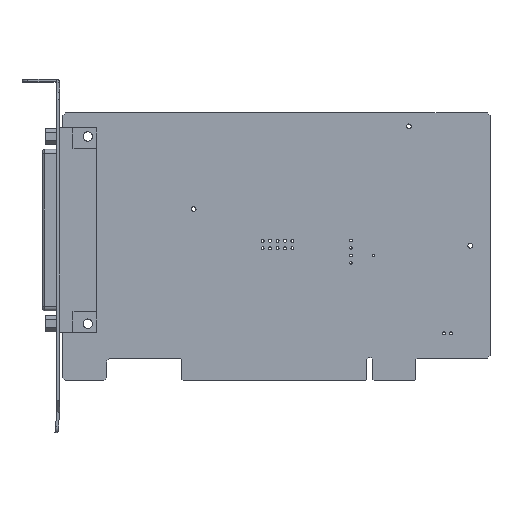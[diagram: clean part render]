
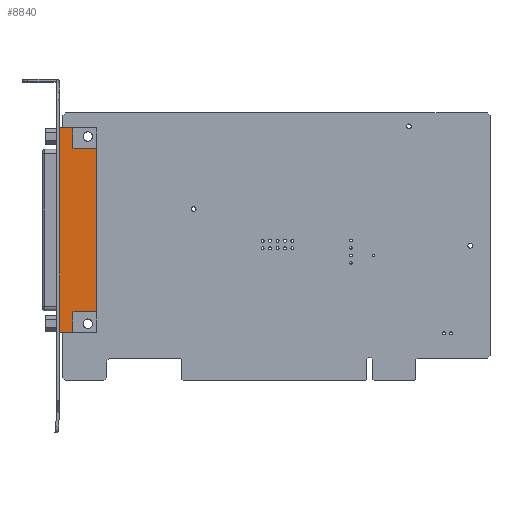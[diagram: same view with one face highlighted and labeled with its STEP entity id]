
A CAD part, top view. The second image highlights one B-rep face of the part: STEP entity #8840.
In plain terms, the highlighted planar face has unit normal (0, 0, 1) as drawn and (0, 1, 0) by its records, which use the part's own axes.
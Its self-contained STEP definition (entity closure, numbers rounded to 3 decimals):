
#356 = CARTESIAN_POINT ( 'NONE',  ( 34.7, 6.275, 12.5 ) ) ;
#367 = FACE_OUTER_BOUND ( 'NONE', #18461, .T. ) ;
#390 = CARTESIAN_POINT ( 'NONE',  ( -27.7, 6.275, 12.5 ) ) ;
#1034 = VERTEX_POINT ( 'NONE', #1038 ) ;
#1038 = CARTESIAN_POINT ( 'NONE',  ( 27.7, 6.275, 4.5 ) ) ;
#1147 = EDGE_CURVE ( 'NONE', #10505, #1034, #2452, .T. ) ;
#1326 = DIRECTION ( 'NONE',  ( -1., 0., 0. ) ) ;
#1343 = VECTOR ( 'NONE', #1326, 1000. ) ;
#1428 = VECTOR ( 'NONE', #5836, 1000. ) ;
#1873 = DIRECTION ( 'NONE',  ( 0., 0., -1. ) ) ;
#2222 = ORIENTED_EDGE ( 'NONE', *, *, #16032, .F. ) ;
#2452 = LINE ( 'NONE', #14321, #1343 ) ;
#2467 = EDGE_CURVE ( 'NONE', #5662, #10153, #4336, .T. ) ;
#2583 = EDGE_CURVE ( 'NONE', #10153, #17090, #16372, .T. ) ;
#2630 = CARTESIAN_POINT ( 'NONE',  ( 27.7, 6.275, 12.5 ) ) ;
#2715 = CARTESIAN_POINT ( 'NONE',  ( -34.7, 6.275, 4.5 ) ) ;
#2987 = ORIENTED_EDGE ( 'NONE', *, *, #1147, .F. ) ;
#3060 = VECTOR ( 'NONE', #5608, 1000. ) ;
#3066 = ORIENTED_EDGE ( 'NONE', *, *, #13120, .F. ) ;
#3464 = CARTESIAN_POINT ( 'NONE',  ( -34.7, 6.275, 12.5 ) ) ;
#3543 = LINE ( 'NONE', #8352, #12674 ) ;
#3900 = AXIS2_PLACEMENT_3D ( 'NONE', #7371, #14790, #14514 ) ;
#4318 = VECTOR ( 'NONE', #8500, 1000. ) ;
#4336 = LINE ( 'NONE', #14583, #1428 ) ;
#4567 = ORIENTED_EDGE ( 'NONE', *, *, #2583, .F. ) ;
#5608 = DIRECTION ( 'NONE',  ( 0., 0., 1. ) ) ;
#5662 = VERTEX_POINT ( 'NONE', #9880 ) ;
#5805 = EDGE_CURVE ( 'NONE', #1034, #7935, #12827, .T. ) ;
#5836 = DIRECTION ( 'NONE',  ( -1., 0., 0. ) ) ;
#6936 = EDGE_CURVE ( 'NONE', #12677, #17090, #11070, .T. ) ;
#7371 = CARTESIAN_POINT ( 'NONE',  ( -34.7, 6.275, 12.5 ) ) ;
#7935 = VERTEX_POINT ( 'NONE', #2630 ) ;
#8352 = CARTESIAN_POINT ( 'NONE',  ( -34.7, 6.275, 12.5 ) ) ;
#8500 = DIRECTION ( 'NONE',  ( -1., 0., 0. ) ) ;
#8840 = ADVANCED_FACE ( 'NONE', ( #367 ), #12022, .F. ) ;
#9848 = CARTESIAN_POINT ( 'NONE',  ( -34.7, 6.275, 0. ) ) ;
#9880 = CARTESIAN_POINT ( 'NONE',  ( -27.7, 6.275, 4.5 ) ) ;
#10153 = VERTEX_POINT ( 'NONE', #2715 ) ;
#10505 = VERTEX_POINT ( 'NONE', #15304 ) ;
#11070 = LINE ( 'NONE', #9848, #4318 ) ;
#11395 = CARTESIAN_POINT ( 'NONE',  ( -27.7, 6.275, 12.5 ) ) ;
#11979 = VECTOR ( 'NONE', #1873, 1000. ) ;
#12022 = PLANE ( 'NONE',  #3900 ) ;
#12674 = VECTOR ( 'NONE', #18554, 1000. ) ;
#12677 = VERTEX_POINT ( 'NONE', #17960 ) ;
#12827 = LINE ( 'NONE', #18639, #3060 ) ;
#13120 = EDGE_CURVE ( 'NONE', #18549, #5662, #14903, .T. ) ;
#14084 = EDGE_CURVE ( 'NONE', #10505, #12677, #16389, .T. ) ;
#14090 = ORIENTED_EDGE ( 'NONE', *, *, #14084, .T. ) ;
#14321 = CARTESIAN_POINT ( 'NONE',  ( 27.7, 6.275, 4.5 ) ) ;
#14514 = DIRECTION ( 'NONE',  ( 0., 0., -1. ) ) ;
#14519 = ORIENTED_EDGE ( 'NONE', *, *, #6936, .T. ) ;
#14583 = CARTESIAN_POINT ( 'NONE',  ( -27.7, 6.275, 4.5 ) ) ;
#14790 = DIRECTION ( 'NONE',  ( 0., -1., 0. ) ) ;
#14903 = LINE ( 'NONE', #390, #17689 ) ;
#15138 = DIRECTION ( 'NONE',  ( 0., 0., -1. ) ) ;
#15304 = CARTESIAN_POINT ( 'NONE',  ( 34.7, 6.275, 4.5 ) ) ;
#15493 = CARTESIAN_POINT ( 'NONE',  ( -34.7, 6.275, 0. ) ) ;
#16032 = EDGE_CURVE ( 'NONE', #7935, #18549, #3543, .T. ) ;
#16372 = LINE ( 'NONE', #3464, #16556 ) ;
#16389 = LINE ( 'NONE', #356, #11979 ) ;
#16556 = VECTOR ( 'NONE', #15138, 1000. ) ;
#16748 = ORIENTED_EDGE ( 'NONE', *, *, #2467, .F. ) ;
#17090 = VERTEX_POINT ( 'NONE', #15493 ) ;
#17514 = ORIENTED_EDGE ( 'NONE', *, *, #5805, .F. ) ;
#17571 = DIRECTION ( 'NONE',  ( 0., 0., -1. ) ) ;
#17689 = VECTOR ( 'NONE', #17571, 1000. ) ;
#17960 = CARTESIAN_POINT ( 'NONE',  ( 34.7, 6.275, 0. ) ) ;
#18461 = EDGE_LOOP ( 'NONE', ( #4567, #16748, #3066, #2222, #17514, #2987, #14090, #14519 ) ) ;
#18549 = VERTEX_POINT ( 'NONE', #11395 ) ;
#18554 = DIRECTION ( 'NONE',  ( -1., 0., 0. ) ) ;
#18639 = CARTESIAN_POINT ( 'NONE',  ( 27.7, 6.275, 12.5 ) ) ;
